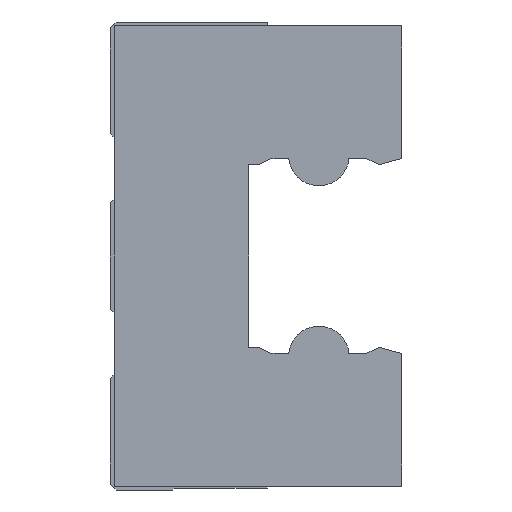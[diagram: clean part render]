
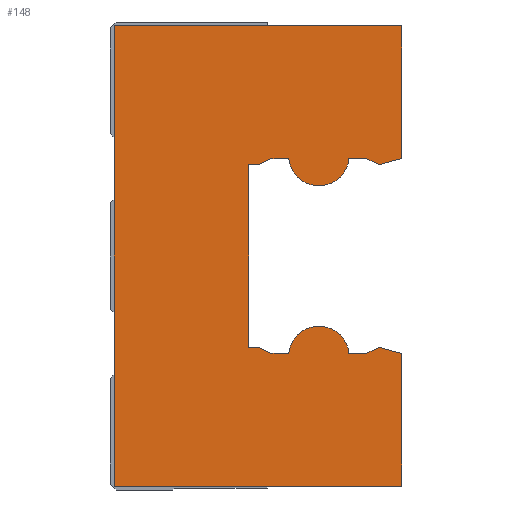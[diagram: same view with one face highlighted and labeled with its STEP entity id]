
A CAD part, left-side view. The second image highlights one B-rep face of the part: STEP entity #148.
In plain terms, the highlighted planar face has unit normal (-1, 0, 0).
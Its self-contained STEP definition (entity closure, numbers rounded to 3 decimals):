
#148 = ADVANCED_FACE( '', ( #300 ), #301, .F. );
#300 = FACE_OUTER_BOUND( '', #452, .T. );
#301 = PLANE( '', #453 );
#452 = EDGE_LOOP( '', ( #1021, #1022, #1023, #1024, #1025, #1026, #1027, #1028, #1029, #1030, #1031, #1032, #1033, #1034, #1035, #1036, #1037, #1038, #1039, #1040 ) );
#453 = AXIS2_PLACEMENT_3D( '', #1041, #1042, #1043 );
#1021 = ORIENTED_EDGE( '', *, *, #1227, .F. );
#1022 = ORIENTED_EDGE( '', *, *, #1174, .F. );
#1023 = ORIENTED_EDGE( '', *, *, #1177, .F. );
#1024 = ORIENTED_EDGE( '', *, *, #1169, .F. );
#1025 = ORIENTED_EDGE( '', *, *, #1180, .F. );
#1026 = ORIENTED_EDGE( '', *, *, #1183, .F. );
#1027 = ORIENTED_EDGE( '', *, *, #1186, .F. );
#1028 = ORIENTED_EDGE( '', *, *, #1189, .F. );
#1029 = ORIENTED_EDGE( '', *, *, #1192, .F. );
#1030 = ORIENTED_EDGE( '', *, *, #1195, .F. );
#1031 = ORIENTED_EDGE( '', *, *, #1198, .F. );
#1032 = ORIENTED_EDGE( '', *, *, #1201, .F. );
#1033 = ORIENTED_EDGE( '', *, *, #1204, .F. );
#1034 = ORIENTED_EDGE( '', *, *, #1207, .F. );
#1035 = ORIENTED_EDGE( '', *, *, #1210, .F. );
#1036 = ORIENTED_EDGE( '', *, *, #1213, .F. );
#1037 = ORIENTED_EDGE( '', *, *, #1216, .F. );
#1038 = ORIENTED_EDGE( '', *, *, #1219, .F. );
#1039 = ORIENTED_EDGE( '', *, *, #1222, .F. );
#1040 = ORIENTED_EDGE( '', *, *, #1225, .F. );
#1041 = CARTESIAN_POINT( '', ( 0., 0., 0. ) );
#1042 = DIRECTION( '', ( 1., 0., 0. ) );
#1043 = DIRECTION( '', ( 0., 0., -1. ) );
#1169 = EDGE_CURVE( '', #1430, #1432, #1433, .T. );
#1174 = EDGE_CURVE( '', #1438, #1440, #1441, .T. );
#1177 = EDGE_CURVE( '', #1432, #1438, #1445, .T. );
#1180 = EDGE_CURVE( '', #1448, #1430, #1450, .T. );
#1183 = EDGE_CURVE( '', #1453, #1448, #1455, .T. );
#1186 = EDGE_CURVE( '', #1458, #1453, #1460, .T. );
#1189 = EDGE_CURVE( '', #1463, #1458, #1465, .T. );
#1192 = EDGE_CURVE( '', #1468, #1463, #1470, .T. );
#1195 = EDGE_CURVE( '', #1473, #1468, #1475, .T. );
#1198 = EDGE_CURVE( '', #1478, #1473, #1480, .T. );
#1201 = EDGE_CURVE( '', #1483, #1478, #1485, .T. );
#1204 = EDGE_CURVE( '', #1488, #1483, #1490, .T. );
#1207 = EDGE_CURVE( '', #1493, #1488, #1495, .T. );
#1210 = EDGE_CURVE( '', #1498, #1493, #1500, .T. );
#1213 = EDGE_CURVE( '', #1503, #1498, #1505, .T. );
#1216 = EDGE_CURVE( '', #1508, #1503, #1510, .T. );
#1219 = EDGE_CURVE( '', #1513, #1508, #1515, .T. );
#1222 = EDGE_CURVE( '', #1518, #1513, #1520, .T. );
#1225 = EDGE_CURVE( '', #1523, #1518, #1525, .T. );
#1227 = EDGE_CURVE( '', #1440, #1523, #1527, .T. );
#1430 = VERTEX_POINT( '', #1830 );
#1432 = VERTEX_POINT( '', #1833 );
#1433 = LINE( '', #1834, #1835 );
#1438 = VERTEX_POINT( '', #1843 );
#1440 = VERTEX_POINT( '', #1846 );
#1441 = LINE( '', #1847, #1848 );
#1445 = LINE( '', #1854, #1855 );
#1448 = VERTEX_POINT( '', #1859 );
#1450 = LINE( '', #1862, #1863 );
#1453 = VERTEX_POINT( '', #1867 );
#1455 = LINE( '', #1870, #1871 );
#1458 = VERTEX_POINT( '', #1875 );
#1460 = LINE( '', #1878, #1879 );
#1463 = VERTEX_POINT( '', #1883 );
#1465 = LINE( '', #1886, #1887 );
#1468 = VERTEX_POINT( '', #1890 );
#1470 = CIRCLE( '', #1893, 3.1 );
#1473 = VERTEX_POINT( '', #1897 );
#1475 = LINE( '', #1900, #1901 );
#1478 = VERTEX_POINT( '', #1905 );
#1480 = LINE( '', #1908, #1909 );
#1483 = VERTEX_POINT( '', #1913 );
#1485 = LINE( '', #1916, #1917 );
#1488 = VERTEX_POINT( '', #1921 );
#1490 = LINE( '', #1924, #1925 );
#1493 = VERTEX_POINT( '', #1929 );
#1495 = LINE( '', #1932, #1933 );
#1498 = VERTEX_POINT( '', #1937 );
#1500 = LINE( '', #1940, #1941 );
#1503 = VERTEX_POINT( '', #1945 );
#1505 = LINE( '', #1948, #1949 );
#1508 = VERTEX_POINT( '', #1952 );
#1510 = CIRCLE( '', #1955, 3.1 );
#1513 = VERTEX_POINT( '', #1959 );
#1515 = LINE( '', #1962, #1963 );
#1518 = VERTEX_POINT( '', #1967 );
#1520 = LINE( '', #1970, #1971 );
#1523 = VERTEX_POINT( '', #1975 );
#1525 = LINE( '', #1978, #1979 );
#1527 = LINE( '', #1982, #1983 );
#1830 = CARTESIAN_POINT( '', ( 0., 0., -23.6 ) );
#1833 = CARTESIAN_POINT( '', ( 0., 29.5, -23.6 ) );
#1834 = CARTESIAN_POINT( '', ( 0., 0., -23.6 ) );
#1835 = VECTOR( '', #2157, 1. );
#1843 = CARTESIAN_POINT( '', ( 0., 29.5, 23.6 ) );
#1846 = CARTESIAN_POINT( '', ( 0., 0., 23.6 ) );
#1847 = CARTESIAN_POINT( '', ( 0., 29.5, 23.6 ) );
#1848 = VECTOR( '', #2162, 1. );
#1854 = CARTESIAN_POINT( '', ( 0., 29.5, -23.6 ) );
#1855 = VECTOR( '', #2165, 1. );
#1859 = CARTESIAN_POINT( '', ( 0., 0., -10. ) );
#1862 = CARTESIAN_POINT( '', ( 0., 0., -10. ) );
#1863 = VECTOR( '', #2168, 1. );
#1867 = CARTESIAN_POINT( '', ( 0., 2.33, -9.375 ) );
#1870 = CARTESIAN_POINT( '', ( 0., 2.33, -9.375 ) );
#1871 = VECTOR( '', #2171, 1. );
#1875 = CARTESIAN_POINT( '', ( 0., 3.67, -10. ) );
#1878 = CARTESIAN_POINT( '', ( 0., 3.67, -10. ) );
#1879 = VECTOR( '', #2174, 1. );
#1883 = CARTESIAN_POINT( '', ( 0., 5.415, -10. ) );
#1886 = CARTESIAN_POINT( '', ( 0., 5.415, -10. ) );
#1887 = VECTOR( '', #2177, 1. );
#1890 = CARTESIAN_POINT( '', ( 0., 11.585, -10. ) );
#1893 = AXIS2_PLACEMENT_3D( '', #2182, #2183, #2184 );
#1897 = CARTESIAN_POINT( '', ( 0., 13.316, -10. ) );
#1900 = CARTESIAN_POINT( '', ( 0., 13.316, -10. ) );
#1901 = VECTOR( '', #2187, 1. );
#1905 = CARTESIAN_POINT( '', ( 0., 14.656, -9.375 ) );
#1908 = CARTESIAN_POINT( '', ( 0., 14.656, -9.375 ) );
#1909 = VECTOR( '', #2190, 1. );
#1913 = CARTESIAN_POINT( '', ( 0., 15.7, -9.375 ) );
#1916 = CARTESIAN_POINT( '', ( 0., 15.7, -9.375 ) );
#1917 = VECTOR( '', #2193, 1. );
#1921 = CARTESIAN_POINT( '', ( 0., 15.7, 9.375 ) );
#1924 = CARTESIAN_POINT( '', ( 0., 15.7, 9.375 ) );
#1925 = VECTOR( '', #2196, 1. );
#1929 = CARTESIAN_POINT( '', ( 0., 14.656, 9.375 ) );
#1932 = CARTESIAN_POINT( '', ( 0., 14.656, 9.375 ) );
#1933 = VECTOR( '', #2199, 1. );
#1937 = CARTESIAN_POINT( '', ( 0., 13.316, 10. ) );
#1940 = CARTESIAN_POINT( '', ( 0., 13.316, 10. ) );
#1941 = VECTOR( '', #2202, 1. );
#1945 = CARTESIAN_POINT( '', ( 0., 11.585, 10. ) );
#1948 = CARTESIAN_POINT( '', ( 0., 11.585, 10. ) );
#1949 = VECTOR( '', #2205, 1. );
#1952 = CARTESIAN_POINT( '', ( 0., 5.415, 10. ) );
#1955 = AXIS2_PLACEMENT_3D( '', #2210, #2211, #2212 );
#1959 = CARTESIAN_POINT( '', ( 0., 3.67, 10. ) );
#1962 = CARTESIAN_POINT( '', ( 0., 3.67, 10. ) );
#1963 = VECTOR( '', #2215, 1. );
#1967 = CARTESIAN_POINT( '', ( 0., 2.33, 9.375 ) );
#1970 = CARTESIAN_POINT( '', ( 0., 2.33, 9.375 ) );
#1971 = VECTOR( '', #2218, 1. );
#1975 = CARTESIAN_POINT( '', ( 0., 0., 10. ) );
#1978 = CARTESIAN_POINT( '', ( 0., 0., 10. ) );
#1979 = VECTOR( '', #2221, 1. );
#1982 = CARTESIAN_POINT( '', ( 0., 0., 23.6 ) );
#1983 = VECTOR( '', #2223, 1. );
#2157 = DIRECTION( '', ( 0., 1., 0. ) );
#2162 = DIRECTION( '', ( 0., -1., 0. ) );
#2165 = DIRECTION( '', ( 0., 0., 1. ) );
#2168 = DIRECTION( '', ( 0., 0., -1. ) );
#2171 = DIRECTION( '', ( 0., -0.966, -0.259 ) );
#2174 = DIRECTION( '', ( 0., -0.906, 0.423 ) );
#2177 = DIRECTION( '', ( 0., -1., 0. ) );
#2182 = CARTESIAN_POINT( '', ( 0., 8.5, -10.3 ) );
#2183 = DIRECTION( '', ( 1., 0., 0. ) );
#2184 = DIRECTION( '', ( 0., 0.995, 0.097 ) );
#2187 = DIRECTION( '', ( 0., -1., 0. ) );
#2190 = DIRECTION( '', ( 0., -0.906, -0.423 ) );
#2193 = DIRECTION( '', ( 0., -1., 0. ) );
#2196 = DIRECTION( '', ( 0., 0., -1. ) );
#2199 = DIRECTION( '', ( 0., 1., 0. ) );
#2202 = DIRECTION( '', ( 0., 0.906, -0.423 ) );
#2205 = DIRECTION( '', ( 0., 1., 0. ) );
#2210 = CARTESIAN_POINT( '', ( 0., 8.5, 10.3 ) );
#2211 = DIRECTION( '', ( 1., 0., 0. ) );
#2212 = DIRECTION( '', ( 0., -0.995, -0.097 ) );
#2215 = DIRECTION( '', ( 0., 1., 0. ) );
#2218 = DIRECTION( '', ( 0., 0.906, 0.423 ) );
#2221 = DIRECTION( '', ( 0., 0.966, -0.259 ) );
#2223 = DIRECTION( '', ( 0., 0., -1. ) );
